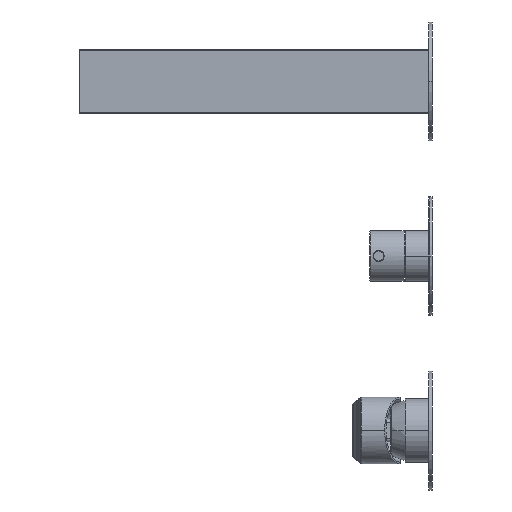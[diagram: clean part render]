
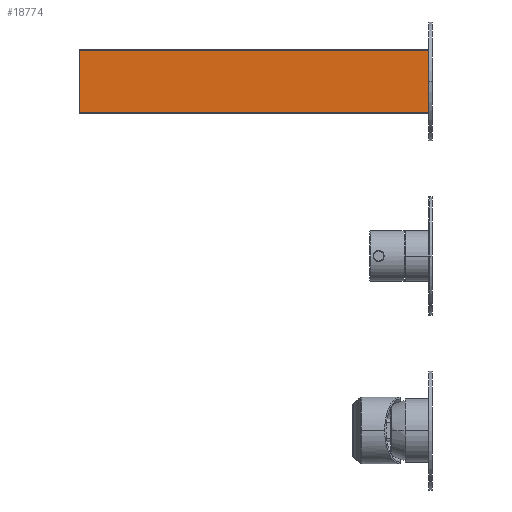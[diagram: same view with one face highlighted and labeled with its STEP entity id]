
A CAD part, left-side view. The second image highlights one B-rep face of the part: STEP entity #18774.
In plain terms, the highlighted planar face has unit normal (-1, 0, 0).
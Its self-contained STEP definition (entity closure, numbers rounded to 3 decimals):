
#15547=DIRECTION('',(0.,0.,-1.));
#15548=VECTOR('',#15547,39.205);
#15549=CARTESIAN_POINT('',(-10.5,82.,129.602));
#15550=LINE('',#15549,#15548);
#15551=DIRECTION('',(0.,-1.,0.));
#15552=VECTOR('',#15551,220.);
#15553=CARTESIAN_POINT('',(-10.5,302.,90.398));
#15554=LINE('',#15553,#15552);
#15555=DIRECTION('',(0.,-1.,0.));
#15556=VECTOR('',#15555,220.);
#15557=CARTESIAN_POINT('',(-10.5,302.,129.602));
#15558=LINE('',#15557,#15556);
#15587=DIRECTION('',(0.,0.,-1.));
#15588=VECTOR('',#15587,39.205);
#15589=CARTESIAN_POINT('',(-10.5,302.,129.602));
#15590=LINE('',#15589,#15588);
#16996=CARTESIAN_POINT('',(-10.5,302.,129.602));
#16998=VERTEX_POINT('',#16996);
#16999=CARTESIAN_POINT('',(-10.5,302.,90.398));
#17001=VERTEX_POINT('',#16999);
#17234=CARTESIAN_POINT('',(-10.5,82.,129.602));
#17235=CARTESIAN_POINT('',(-10.5,82.,90.398));
#17236=VERTEX_POINT('',#17234);
#17237=VERTEX_POINT('',#17235);
#18761=CARTESIAN_POINT('',(-10.5,302.,130.));
#18762=DIRECTION('',(-1.,0.,0.));
#18763=DIRECTION('',(0.,0.,-1.));
#18764=AXIS2_PLACEMENT_3D('',#18761,#18762,#18763);
#18765=PLANE('',#18764);
#18766=ORIENTED_EDGE('',*,*,#18346,.T.);
#18768=ORIENTED_EDGE('',*,*,#18767,.F.);
#18770=ORIENTED_EDGE('',*,*,#18769,.F.);
#18771=ORIENTED_EDGE('',*,*,#18753,.T.);
#18772=EDGE_LOOP('',(#18766,#18768,#18770,#18771));
#18773=FACE_OUTER_BOUND('',#18772,.F.);
#18774=ADVANCED_FACE('',(#18773),#18765,.T.);
#18346=EDGE_CURVE('',#17236,#17237,#15550,.T.);
#18753=EDGE_CURVE('',#16998,#17236,#15558,.T.);
#18767=EDGE_CURVE('',#17001,#17237,#15554,.T.);
#18769=EDGE_CURVE('',#16998,#17001,#15590,.T.);
